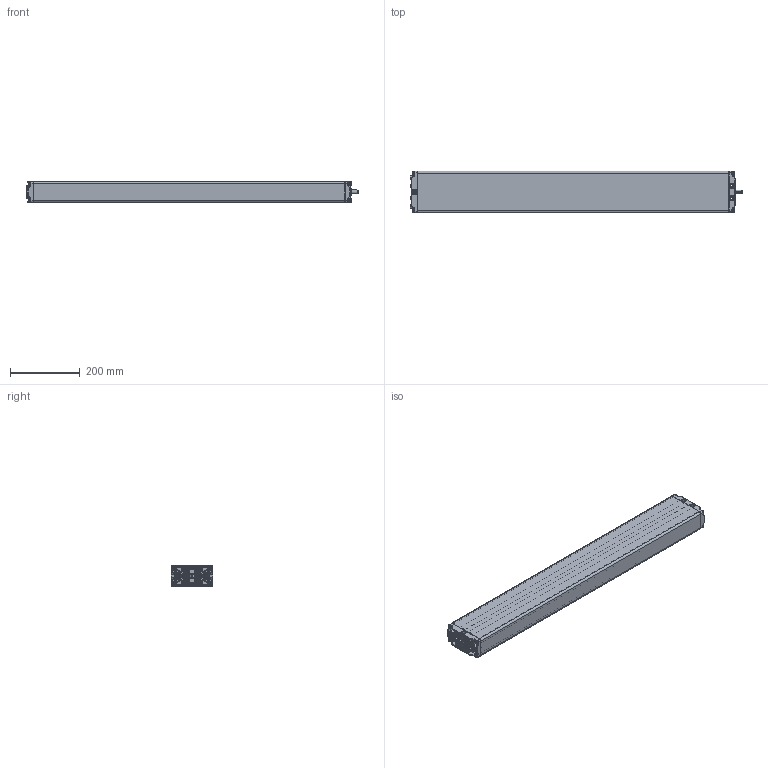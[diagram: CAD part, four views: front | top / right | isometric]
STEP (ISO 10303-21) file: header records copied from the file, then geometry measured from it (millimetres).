
FILE_DESCRIPTION(/* description */ ('Unknown'),/* implementation_level */ '2;1');
FILE_NAME(/* name */ '102.20040 Pumpe PB 6866 W',/* time_stamp */ '2016-10-03T15:19:55+02:00',/* author */ ('Unknown'),/* organization */ ('Unknown'),/* preprocessor_version */ 'ST-DEVELOPER v16.7',/* originating_system */ 'DEX',/* authorisation */ $);
FILE_SCHEMA (('AUTOMOTIVE_DESIGN {1 0 10303 214 3 1 1}'));
Products named in the file (14): 102.20040; 115.00038; 125.00045; 115.00008; 142.00021; 125.00021; 142.00013; 125.00147; 115.00140; 126.00006; 122.00040; 119.00047; 126.00005; 142.00057
Assembly tree (25 placements, depth 3):
  102.20040
    115.00038  x6
      125.00045
      115.00008
      142.00021
      125.00021
    142.00013  x8
    125.00147
    115.00140
      126.00006
      122.00040
    119.00047
    126.00005
    142.00057
Bounding box: 951.97 x 120 x 60.3 mm (x, y, z)
Volume: 1115608.1 mm3; surface area: 777858.9 mm2
Topology: 32 solids, 32 shells, 2594 faces, 6141 edges, 3544 vertices
Faces by surface type: bspline 704, plane 703, cylinder 576, cone 375, torus 176, sphere 60
Full cylindrical faces by diameter (mm): 3.5 x6, 4.1 x6, 4.2 x6, 5 x8, 6.917 x12, 8 x13, 9.8 x8, 10 x3, 10.4 x1, 14 x1, 14.4 x6, 17.3 x6, 17.9 x12, 18 x1, 19 x1
Entity records: 97550 total; most frequent: CARTESIAN_POINT 54065, ORIENTED_EDGE 8234, DIRECTION 6555, EDGE_CURVE 4117, AXIS2_PLACEMENT_3D 2635, VERTEX_POINT 2519, FACE_BOUND 1980, EDGE_LOOP 1979
